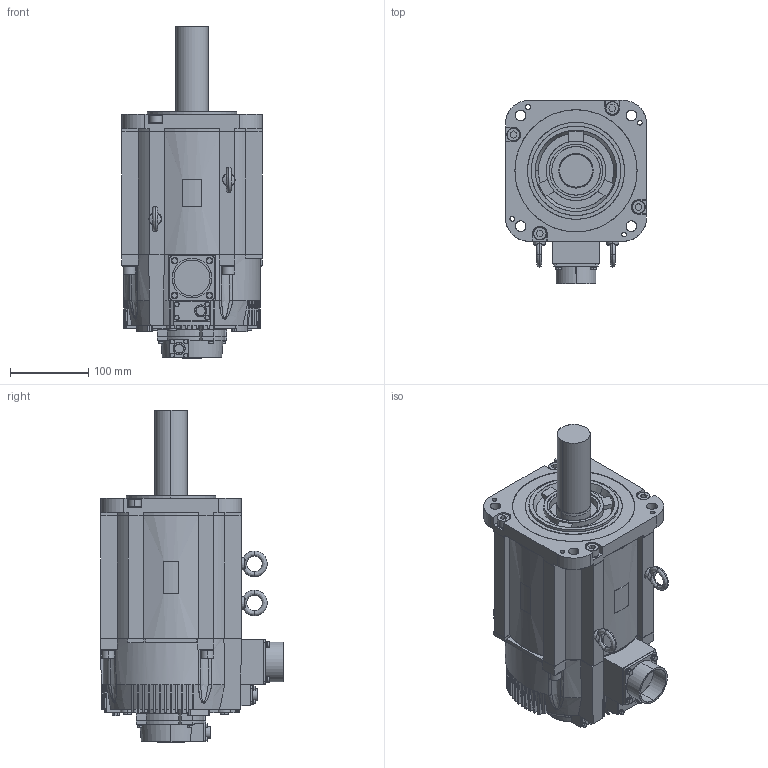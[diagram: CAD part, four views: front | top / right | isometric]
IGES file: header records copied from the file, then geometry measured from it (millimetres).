
Start section: SolidWorks IGES file using analytic representation for surfaces
Global section: file name: D:\YASKAWA\sgm7g_75__a2c.IGS; native system: SolidWorks 2006 by SolidWorks Corporation; preprocessor: SolidWorks 2006 by SolidWorks Corporation; author: yamanouchi; date: 140507.141019; units: millimetre
Bounding box: 180 x 233.75 x 424.1 mm (x, y, z)
Surface area: 352193.5 mm2 (no closed solid volume)
Topology: 0 solids, 0 shells, 1060 faces, 13677 edges, 13670 vertices
Faces by surface type: bspline 655, revolution 405
